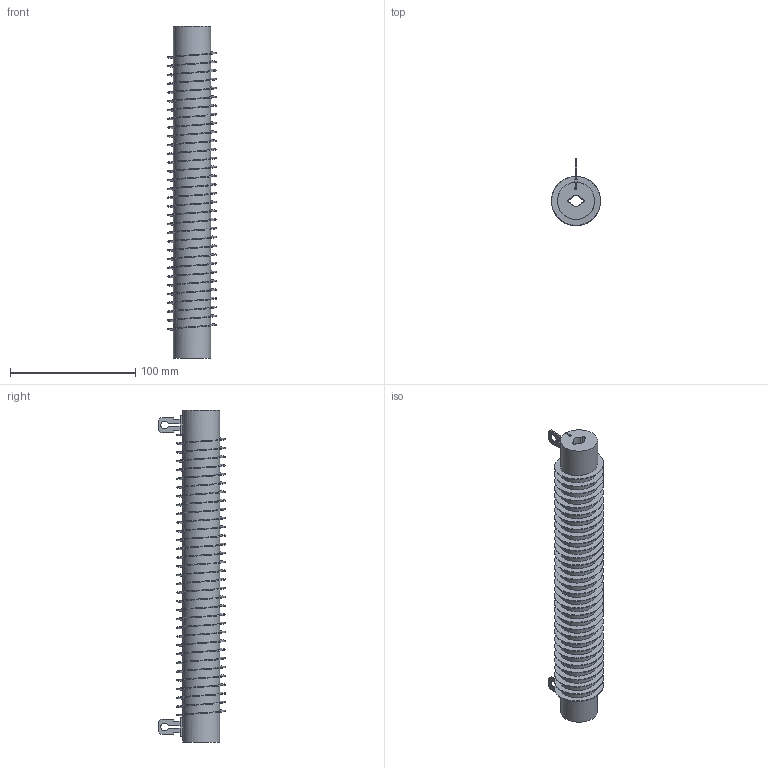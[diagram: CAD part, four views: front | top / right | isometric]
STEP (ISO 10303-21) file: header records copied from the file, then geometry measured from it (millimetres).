
FILE_DESCRIPTION(/* description */ (''),/* implementation_level */ '2;1');
FILE_NAME(/* name */ 'C:\_Vault\Dati\CATALOGO\RCPO-RSPO\RCPO-RSPO 152-420\CPO0370.stp',/* time_stamp */ '2014-01-22T16:45:01+01:00',/* author */ ('stefano'),/* organization */ (''),/* preprocessor_version */ 'ST-DEVELOPER v15.2',/* originating_system */ 'Autodesk Inventor 2014',/* authorisation */ '');
FILE_SCHEMA (('AUTOMOTIVE_DESIGN { 1 0 10303 214 3 1 1 }'));
Length unit declared in the file: millimetre
Products named in the file (1): CPO0370
Bounding box: 39 x 53.5 x 265 mm (x, y, z)
Volume: 167699.9 mm3; surface area: 72540.7 mm2
Topology: 1 solids, 1 shells, 115 faces, 345 edges, 229 vertices
Faces by surface type: plane 66, cylinder 47, bspline 2
Full cylindrical faces by diameter (mm): 29.6 x32
Entity records: 8648 total; most frequent: CARTESIAN_POINT 6182, ORIENTED_EDGE 498, DIRECTION 470, EDGE_CURVE 248, LINE 184, VECTOR 184, VERTEX_POINT 165, AXIS2_PLACEMENT_3D 143
